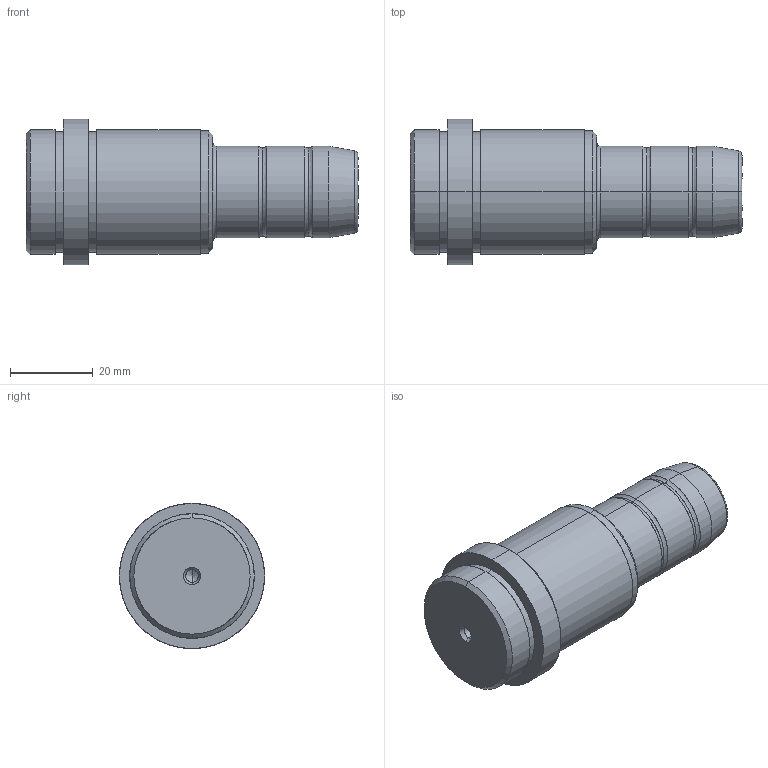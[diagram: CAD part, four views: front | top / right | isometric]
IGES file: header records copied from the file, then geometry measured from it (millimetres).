
Start section: SolidWorks IGES FILE using analytic representation for surfaces
Global section: file name: D:\zzzzz\Delta\D03\22\D03 - 22x36x35.IGS; native system: SolidWorks 2004 by SolidWorks Corporation; preprocessor: Version 5.3; author: Hkn; date: 080327.170221; units: millimetre
Bounding box: 80 x 35 x 35 mm (x, y, z)
Surface area: 8677.3 mm2 (no closed solid volume)
Topology: 0 solids, 0 shells, 56 faces, 1056 edges, 1052 vertices
Faces by surface type: revolution 36, bspline 20
